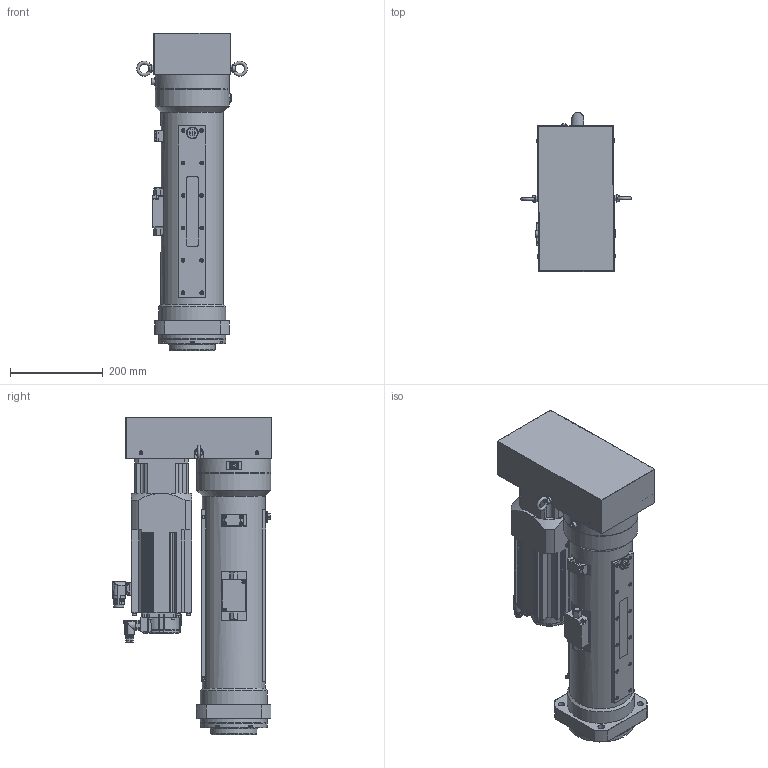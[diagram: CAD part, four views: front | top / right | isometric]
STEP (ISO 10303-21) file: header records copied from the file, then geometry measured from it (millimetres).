
FILE_DESCRIPTION(/* description */ (''),/* implementation_level */ '2;1');
FILE_NAME(/* name */ 'Z:\07.Product\01.Design\3D\1.P-All\OAICS-P\0000.Assembly\OACIS-P070,P080-300-150-A6V400.stp',/* time_stamp */ '2023-03-03T11:03:52+09:00',/* author */ ('magic'),/* organization */ (''),/* preprocessor_version */ 'ST-DEVELOPER v17',/* originating_system */ 'Autodesk Inventor 2019',/* authorisation */ '');
FILE_SCHEMA (('AUTOMOTIVE_DESIGN { 1 0 10303 214 3 1 1 }'));
Products named in the file (1): OACIS-P080-300-150-A6
Bounding box: 238.9 x 345.02 x 685 mm (x, y, z)
Volume: 12805567.6 mm3; surface area: 1462613.1 mm2
Topology: 2 solids, 7 shells, 2886 faces, 7857 edges, 5200 vertices
Faces by surface type: plane 1452, cylinder 841, cone 267, bspline 156, torus 110, sphere 60
Full cylindrical faces by diameter (mm): 1 x6, 1.25 x12, 2.232 x6, 2.8 x1, 3.242 x10, 4.134 x4, 4.5 x1, 4.917 x1, 5.5 x5, 5.8 x2, 6 x4, 6.5 x2, 6.647 x32, 6.75 x4, 7 x35, 7.2 x2, 7.24 x2, 7.8 x2, 8 x42, 8.5 x4, 9 x24, 9.188 x1, 10 x4, 10.3 x1, 11 x1, 12 x1, 13 x1, 13.4 x1, 13.835 x8, 14 x13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
Entity records: 106602 total; most frequent: CARTESIAN_POINT 30612, ORIENTED_EDGE 15475, DIRECTION 15249, EDGE_CURVE 7745, AXIS2_PLACEMENT_3D 5654, VERTEX_POINT 5200, LINE 3941, VECTOR 3941
